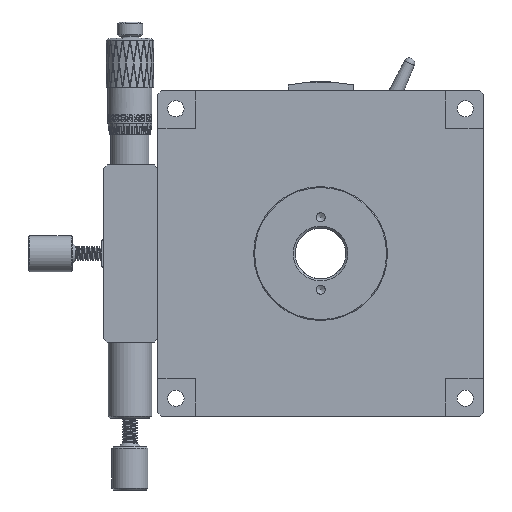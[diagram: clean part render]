
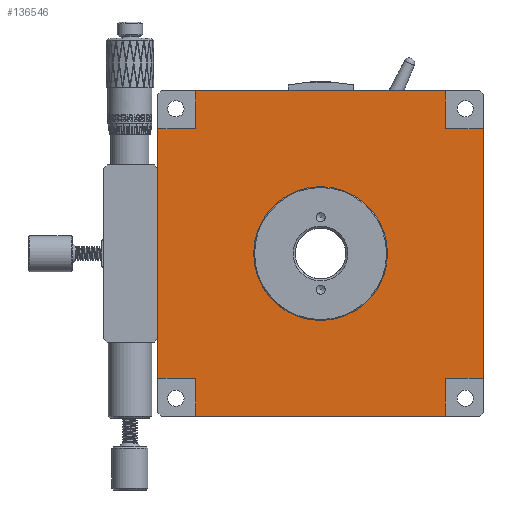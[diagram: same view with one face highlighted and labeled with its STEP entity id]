
A CAD part, front view. The second image highlights one B-rep face of the part: STEP entity #136546.
In plain terms, the highlighted planar face has unit normal (0, -1, 0).
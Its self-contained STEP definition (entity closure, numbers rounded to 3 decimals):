
#892 = CARTESIAN_POINT ( 'NONE',  ( 45., 0.3, -34.5 ) ) ;
#8924 = CARTESIAN_POINT ( 'NONE',  ( -45., 0.3, -34.5 ) ) ;
#14651 = VERTEX_POINT ( 'NONE', #182746 ) ;
#16176 = DIRECTION ( 'NONE',  ( 0., 0., 1. ) ) ;
#17456 = VERTEX_POINT ( 'NONE', #8924 ) ;
#18964 = DIRECTION ( 'NONE',  ( 0., 0., -1. ) ) ;
#24283 = VECTOR ( 'NONE', #126782, 1000. ) ;
#25531 = DIRECTION ( 'NONE',  ( 1., 0., 0. ) ) ;
#27960 = LINE ( 'NONE', #291534, #295810 ) ;
#32775 = LINE ( 'NONE', #87207, #137911 ) ;
#38090 = VECTOR ( 'NONE', #25531, 1000. ) ;
#40317 = EDGE_CURVE ( 'NONE', #261187, #17456, #209605, .T. ) ;
#40402 = LINE ( 'NONE', #175645, #344281 ) ;
#41251 = VERTEX_POINT ( 'NONE', #121501 ) ;
#41269 = VERTEX_POINT ( 'NONE', #251540 ) ;
#52133 = ORIENTED_EDGE ( 'NONE', *, *, #60827, .T. ) ;
#57882 = LINE ( 'NONE', #346069, #233648 ) ;
#58299 = EDGE_CURVE ( 'NONE', #41269, #59094, #290135, .T. ) ;
#58305 = EDGE_CURVE ( 'NONE', #274819, #290480, #205894, .T. ) ;
#59094 = VERTEX_POINT ( 'NONE', #68393 ) ;
#59263 = ORIENTED_EDGE ( 'NONE', *, *, #163765, .T. ) ;
#60827 = EDGE_CURVE ( 'NONE', #170204, #17456, #40402, .T. ) ;
#63319 = EDGE_CURVE ( 'NONE', #236591, #236591, #293846, .T. ) ;
#68393 = CARTESIAN_POINT ( 'NONE',  ( -34.5, 0.3, 45. ) ) ;
#68500 = EDGE_CURVE ( 'NONE', #299808, #14651, #151487, .T. ) ;
#75233 = CARTESIAN_POINT ( 'NONE',  ( 45., 0.3, 34.5 ) ) ;
#76523 = LINE ( 'NONE', #266211, #38090 ) ;
#77351 = ORIENTED_EDGE ( 'NONE', *, *, #63319, .F. ) ;
#77376 = DIRECTION ( 'NONE',  ( 1., 0., 0. ) ) ;
#78136 = ORIENTED_EDGE ( 'NONE', *, *, #58305, .F. ) ;
#83046 = ORIENTED_EDGE ( 'NONE', *, *, #40317, .F. ) ;
#83801 = EDGE_CURVE ( 'NONE', #14651, #268415, #27960, .T. ) ;
#87207 = CARTESIAN_POINT ( 'NONE',  ( 45., 0.3, 45. ) ) ;
#92850 = CARTESIAN_POINT ( 'NONE',  ( 0., 0.3, 0. ) ) ;
#94553 = VECTOR ( 'NONE', #264481, 1000. ) ;
#95754 = ORIENTED_EDGE ( 'NONE', *, *, #264387, .F. ) ;
#99352 = CARTESIAN_POINT ( 'NONE',  ( -34.5, 0.3, -34.5 ) ) ;
#99902 = CARTESIAN_POINT ( 'NONE',  ( 0., 0.3, 0. ) ) ;
#108444 = EDGE_CURVE ( 'NONE', #41251, #268415, #32775, .T. ) ;
#118188 = EDGE_CURVE ( 'NONE', #41251, #274819, #269664, .T. ) ;
#121501 = CARTESIAN_POINT ( 'NONE',  ( 45., 0.3, -34.5 ) ) ;
#122331 = CARTESIAN_POINT ( 'NONE',  ( 34.5, 0.3, 45. ) ) ;
#124094 = CARTESIAN_POINT ( 'NONE',  ( -34.5, 0.3, -45. ) ) ;
#126782 = DIRECTION ( 'NONE',  ( 0., 0., -1. ) ) ;
#131423 = DIRECTION ( 'NONE',  ( 0., 0., -1. ) ) ;
#132494 = ORIENTED_EDGE ( 'NONE', *, *, #58299, .F. ) ;
#136546 = ADVANCED_FACE ( 'NONE', ( #201759, #226393 ), #150744, .T. ) ;
#137911 = VECTOR ( 'NONE', #224199, 1000. ) ;
#142343 = AXIS2_PLACEMENT_3D ( 'NONE', #99902, #289589, #131423 ) ;
#145994 = VECTOR ( 'NONE', #341867, 1000. ) ;
#148585 = CARTESIAN_POINT ( 'NONE',  ( 34.5, 0.3, -34.5 ) ) ;
#149287 = DIRECTION ( 'NONE',  ( 0., 0., -1. ) ) ;
#150744 = PLANE ( 'NONE',  #241710 ) ;
#151487 = LINE ( 'NONE', #232321, #238683 ) ;
#152018 = VECTOR ( 'NONE', #77376, 1000. ) ;
#152154 = ORIENTED_EDGE ( 'NONE', *, *, #68500, .F. ) ;
#156842 = DIRECTION ( 'NONE',  ( -1., 0., 0. ) ) ;
#157500 = ORIENTED_EDGE ( 'NONE', *, *, #306030, .T. ) ;
#159822 = DIRECTION ( 'NONE',  ( -1., 0., 0. ) ) ;
#163765 = EDGE_CURVE ( 'NONE', #299808, #59094, #57882, .T. ) ;
#168098 = EDGE_LOOP ( 'NONE', ( #77351 ) ) ;
#170204 = VERTEX_POINT ( 'NONE', #259835 ) ;
#175645 = CARTESIAN_POINT ( 'NONE',  ( -45., 0.3, 45. ) ) ;
#182002 = LINE ( 'NONE', #124094, #145994 ) ;
#182746 = CARTESIAN_POINT ( 'NONE',  ( 34.5, 0.3, 34.5 ) ) ;
#200036 = DIRECTION ( 'NONE',  ( 0., -1., 0. ) ) ;
#201759 = FACE_BOUND ( 'NONE', #168098, .T. ) ;
#202897 = CARTESIAN_POINT ( 'NONE',  ( 34.5, 0.3, -45. ) ) ;
#205628 = VERTEX_POINT ( 'NONE', #239328 ) ;
#205894 = LINE ( 'NONE', #309540, #24283 ) ;
#209176 = CARTESIAN_POINT ( 'NONE',  ( -45., 0.3, 34.5 ) ) ;
#209441 = DIRECTION ( 'NONE',  ( 0., 0., -1. ) ) ;
#209605 = LINE ( 'NONE', #290388, #244887 ) ;
#221900 = EDGE_CURVE ( 'NONE', #205628, #261187, #182002, .T. ) ;
#224199 = DIRECTION ( 'NONE',  ( 0., 0., 1. ) ) ;
#226393 = FACE_OUTER_BOUND ( 'NONE', #312791, .T. ) ;
#232321 = CARTESIAN_POINT ( 'NONE',  ( 34.5, 0.3, 45. ) ) ;
#233648 = VECTOR ( 'NONE', #159822, 1000. ) ;
#236591 = VERTEX_POINT ( 'NONE', #317363 ) ;
#238683 = VECTOR ( 'NONE', #209441, 1000. ) ;
#239328 = CARTESIAN_POINT ( 'NONE',  ( -34.5, 0.3, -45. ) ) ;
#241710 = AXIS2_PLACEMENT_3D ( 'NONE', #92850, #200036, #18964 ) ;
#242282 = DIRECTION ( 'NONE',  ( 1., 0., 0. ) ) ;
#244887 = VECTOR ( 'NONE', #156842, 1000. ) ;
#246030 = ORIENTED_EDGE ( 'NONE', *, *, #83801, .F. ) ;
#247048 = ORIENTED_EDGE ( 'NONE', *, *, #118188, .F. ) ;
#251540 = CARTESIAN_POINT ( 'NONE',  ( -34.5, 0.3, 34.5 ) ) ;
#259835 = CARTESIAN_POINT ( 'NONE',  ( -45., 0.3, 34.5 ) ) ;
#261187 = VERTEX_POINT ( 'NONE', #99352 ) ;
#264387 = EDGE_CURVE ( 'NONE', #170204, #41269, #342669, .T. ) ;
#264481 = DIRECTION ( 'NONE',  ( -1., 0., 0. ) ) ;
#265231 = ORIENTED_EDGE ( 'NONE', *, *, #108444, .T. ) ;
#266211 = CARTESIAN_POINT ( 'NONE',  ( -45., 0.3, -45. ) ) ;
#268415 = VERTEX_POINT ( 'NONE', #75233 ) ;
#269664 = LINE ( 'NONE', #892, #94553 ) ;
#271045 = VECTOR ( 'NONE', #16176, 1000. ) ;
#274819 = VERTEX_POINT ( 'NONE', #148585 ) ;
#289589 = DIRECTION ( 'NONE',  ( 0., -1., 0. ) ) ;
#290135 = LINE ( 'NONE', #339362, #271045 ) ;
#290388 = CARTESIAN_POINT ( 'NONE',  ( -45., 0.3, -34.5 ) ) ;
#290480 = VERTEX_POINT ( 'NONE', #202897 ) ;
#291534 = CARTESIAN_POINT ( 'NONE',  ( 45., 0.3, 34.5 ) ) ;
#293846 = CIRCLE ( 'NONE', #142343, 18.5 ) ;
#295810 = VECTOR ( 'NONE', #242282, 1000. ) ;
#299808 = VERTEX_POINT ( 'NONE', #122331 ) ;
#306030 = EDGE_CURVE ( 'NONE', #205628, #290480, #76523, .T. ) ;
#309540 = CARTESIAN_POINT ( 'NONE',  ( 34.5, 0.3, -45. ) ) ;
#312791 = EDGE_LOOP ( 'NONE', ( #52133, #83046, #319577, #157500, #78136, #247048, #265231, #246030, #152154, #59263, #132494, #95754 ) ) ;
#317363 = CARTESIAN_POINT ( 'NONE',  ( 0., 0.3, -18.5 ) ) ;
#319577 = ORIENTED_EDGE ( 'NONE', *, *, #221900, .F. ) ;
#339362 = CARTESIAN_POINT ( 'NONE',  ( -34.5, 0.3, 45. ) ) ;
#341867 = DIRECTION ( 'NONE',  ( 0., 0., 1. ) ) ;
#342669 = LINE ( 'NONE', #209176, #152018 ) ;
#344281 = VECTOR ( 'NONE', #149287, 1000. ) ;
#346069 = CARTESIAN_POINT ( 'NONE',  ( -45., 0.3, 45. ) ) ;
